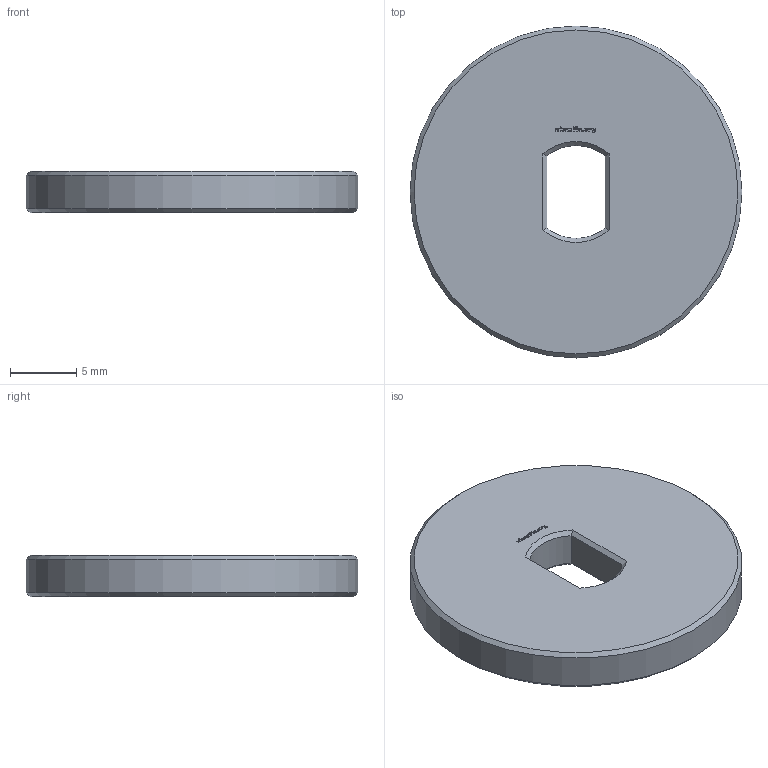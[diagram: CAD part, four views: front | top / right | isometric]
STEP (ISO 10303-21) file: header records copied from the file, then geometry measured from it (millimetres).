
FILE_DESCRIPTION(/* description */ (''),/* implementation_level */ '2;1');
FILE_NAME(/* name */ '/Users/paulokiefe/Desktop/STEMFIE/Fasteners/Washers/Fixed/Washer WSR FXD BU0.25x2.00 - SPN-WSR-0005 v1.step',/* time_stamp */ '2020-09-27T23:12:24+02:00',/* author */ (''),/* organization */ (''),/* preprocessor_version */ 'ST-DEVELOPER v18.1',/* originating_system */ 'Autodesk Translation Framework v9.3.0.1241',/* authorisation */ '');
FILE_SCHEMA (('AUTOMOTIVE_DESIGN { 1 0 10303 214 3 1 1 }'));
Length unit declared in the file: millimetre
Products named in the file (1): Washer WSR FXD BU0.25x2.00 - SPN-WSR-0005
Bounding box: 25 x 25 x 3.12 mm (x, y, z)
Volume: 1435.6 mm3; surface area: 1199.6 mm2
Topology: 1 solids, 1 shells, 261 faces, 731 edges, 484 vertices
Faces by surface type: plane 252, cone 6, cylinder 3
Full cylindrical faces by diameter (mm): 25 x1
Entity records: 8262 total; most frequent: CARTESIAN_POINT 1501, ORIENTED_EDGE 1462, DIRECTION 1259, EDGE_CURVE 731, LINE 711, VECTOR 711, VERTEX_POINT 484, EDGE_LOOP 275
